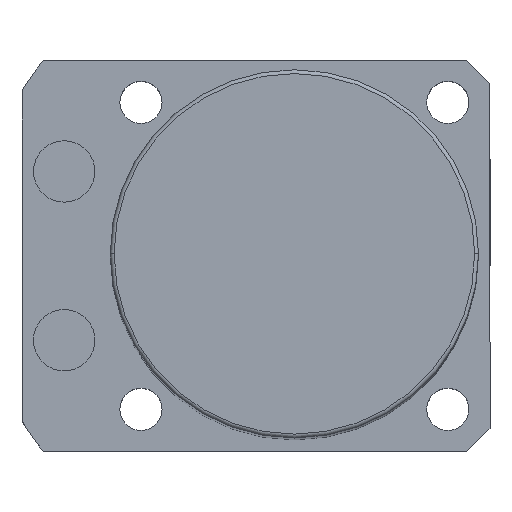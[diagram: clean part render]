
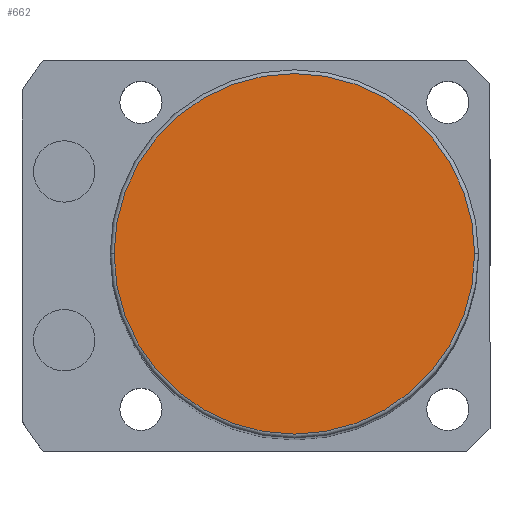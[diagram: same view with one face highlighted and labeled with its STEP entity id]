
A CAD part, top view. The second image highlights one B-rep face of the part: STEP entity #662.
In plain terms, the highlighted planar face has unit normal (0, 0, 1).
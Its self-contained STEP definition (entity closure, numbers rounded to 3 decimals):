
#121 = AXIS2_PLACEMENT_3D ( 'NONE', #1946, #1566, #818 ) ;
#251 = DIRECTION ( 'NONE',  ( 0., 0., 1. ) ) ;
#337 = AXIS2_PLACEMENT_3D ( 'NONE', #2171, #1806, #520 ) ;
#379 = CARTESIAN_POINT ( 'NONE',  ( 23.5, 0., 161. ) ) ;
#402 = ORIENTED_EDGE ( 'NONE', *, *, #1392, .T. ) ;
#520 = DIRECTION ( 'NONE',  ( 1., 0., 0. ) ) ;
#571 = AXIS2_PLACEMENT_3D ( 'NONE', #1859, #251, #1364 ) ;
#662 = ADVANCED_FACE ( 'NONE', ( #700 ), #710, .T. ) ;
#700 = FACE_OUTER_BOUND ( 'NONE', #764, .T. ) ;
#710 = PLANE ( 'NONE',  #337 ) ;
#764 = EDGE_LOOP ( 'NONE', ( #402, #1735 ) ) ;
#804 = VERTEX_POINT ( 'NONE', #379 ) ;
#818 = DIRECTION ( 'NONE',  ( 1., 0., 0. ) ) ;
#1266 = CARTESIAN_POINT ( 'NONE',  ( -23.5, 0., 161. ) ) ;
#1364 = DIRECTION ( 'NONE',  ( 1., 0., 0. ) ) ;
#1392 = EDGE_CURVE ( 'NONE', #804, #1576, #2103, .T. ) ;
#1566 = DIRECTION ( 'NONE',  ( 0., 0., 1. ) ) ;
#1576 = VERTEX_POINT ( 'NONE', #1266 ) ;
#1735 = ORIENTED_EDGE ( 'NONE', *, *, #2200, .T. ) ;
#1806 = DIRECTION ( 'NONE',  ( 0., 0., 1. ) ) ;
#1859 = CARTESIAN_POINT ( 'NONE',  ( 0., 0., 161. ) ) ;
#1946 = CARTESIAN_POINT ( 'NONE',  ( 0., 0., 161. ) ) ;
#2103 = CIRCLE ( 'NONE', #571, 23.5 ) ;
#2171 = CARTESIAN_POINT ( 'NONE',  ( 0., 0., 161. ) ) ;
#2200 = EDGE_CURVE ( 'NONE', #1576, #804, #2325, .T. ) ;
#2325 = CIRCLE ( 'NONE', #121, 23.5 ) ;
